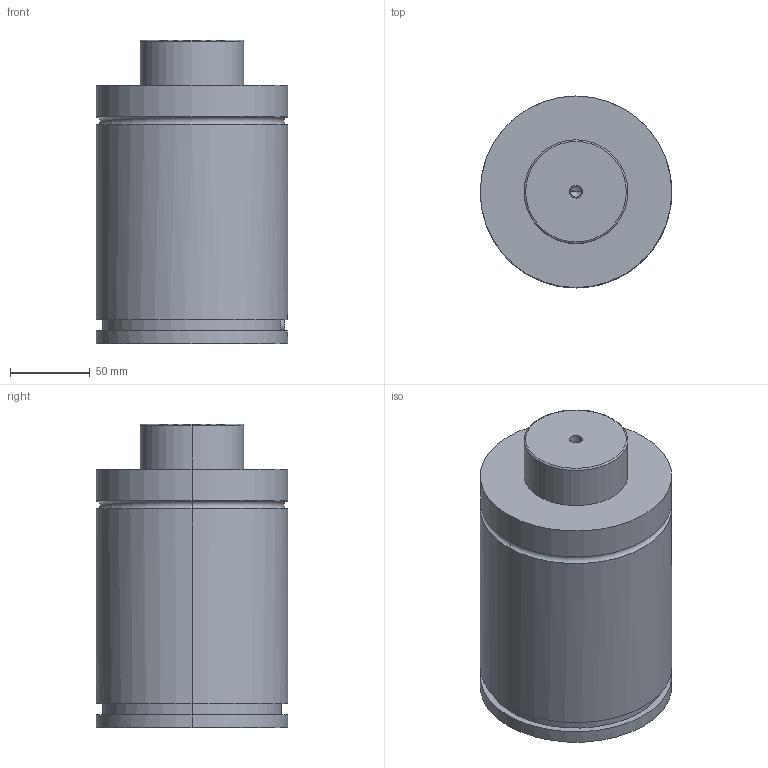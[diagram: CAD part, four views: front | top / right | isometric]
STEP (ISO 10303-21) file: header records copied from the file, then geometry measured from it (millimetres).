
FILE_DESCRIPTION(/* description */ (''),/* implementation_level */ '2;1');
FILE_NAME(/* name */ '3d_gse120-25_03880_r00.stp',/* time_stamp */ '2011-01-10T14:15:20+09:00',/* author */ ('MISUMI'),/* organization */ (''),/* preprocessor_version */ 'ST-DEVELOPER v11',/* originating_system */ 'UGS - NX 5.0',/* authorisation */ '');
FILE_SCHEMA (('CONFIG_CONTROL_DESIGN'));
Length unit declared in the file: millimetre
Products named in the file (1): 3d_gse120-25_03880_r00
Bounding box: 120 x 120 x 190 mm (x, y, z)
Volume: 1903617.9 mm3; surface area: 96346.6 mm2
Topology: 1 solids, 1 shells, 75 faces, 161 edges, 103 vertices
Faces by surface type: cylinder 34, plane 27, cone 10, torus 4
Entity records: 2145 total; most frequent: DIRECTION 393, CARTESIAN_POINT 360, ORIENTED_EDGE 318, AXIS2_PLACEMENT_3D 164, EDGE_CURVE 159, VERTEX_POINT 103, EDGE_LOOP 92, CIRCLE 88
